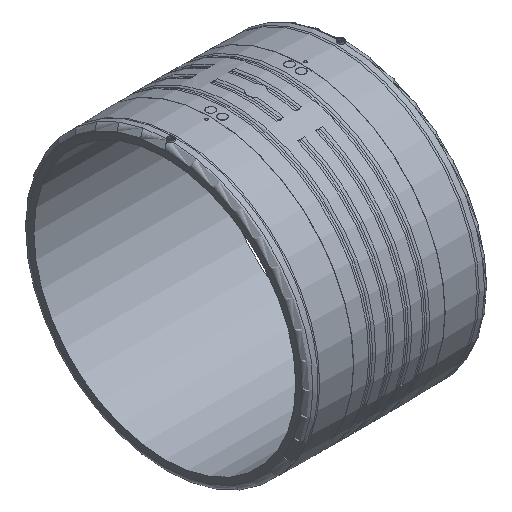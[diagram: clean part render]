
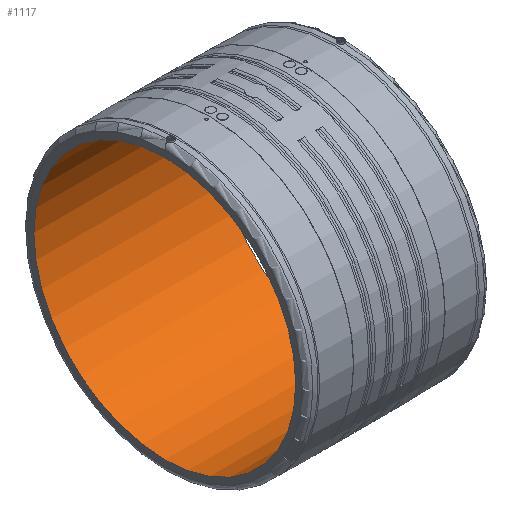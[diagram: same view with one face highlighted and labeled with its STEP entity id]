
A CAD part, isometric view. The second image highlights one B-rep face of the part: STEP entity #1117.
In plain terms, the highlighted cylindrical face has radius 315 mm (diameter 630 mm), a full revolution.
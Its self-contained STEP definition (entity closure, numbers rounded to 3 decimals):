
#369=ORIENTED_EDGE('',*,*,#569,.T.);
#370=ORIENTED_EDGE('',*,*,#568,.F.);
#568=EDGE_CURVE('',#680,#680,#752,.T.);
#569=EDGE_CURVE('',#681,#681,#753,.T.);
#680=VERTEX_POINT('',#2162);
#681=VERTEX_POINT('',#2165);
#752=CIRCLE('',#1256,315.);
#753=CIRCLE('',#1258,315.);
#840=EDGE_LOOP('',(#369));
#841=EDGE_LOOP('',(#370));
#974=FACE_BOUND('',#840,.T.);
#975=FACE_BOUND('',#841,.T.);
#1061=CYLINDRICAL_SURFACE('',#1257,315.);
#1117=ADVANCED_FACE('',(#974,#975),#1061,.F.);
#1256=AXIS2_PLACEMENT_3D('',#2161,#1513,#1514);
#1257=AXIS2_PLACEMENT_3D('',#2163,#1515,#1516);
#1258=AXIS2_PLACEMENT_3D('',#2164,#1517,#1518);
#1513=DIRECTION('',(-1.,0.,0.));
#1514=DIRECTION('',(0.,0.,1.));
#1515=DIRECTION('',(-1.,0.,0.));
#1516=DIRECTION('',(0.,0.,1.));
#1517=DIRECTION('',(-1.,0.,0.));
#1518=DIRECTION('',(0.,0.,1.));
#2161=CARTESIAN_POINT('',(219.5,0.,0.));
#2162=CARTESIAN_POINT('',(219.5,0.,315.));
#2163=CARTESIAN_POINT('',(60.,0.,0.));
#2164=CARTESIAN_POINT('',(-219.5,0.,0.));
#2165=CARTESIAN_POINT('',(-219.5,0.,315.));
